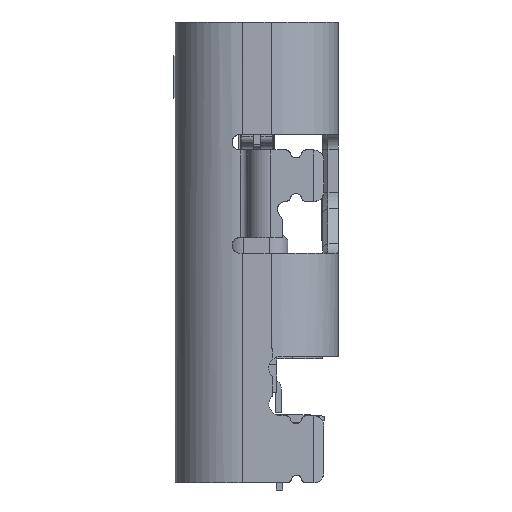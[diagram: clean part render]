
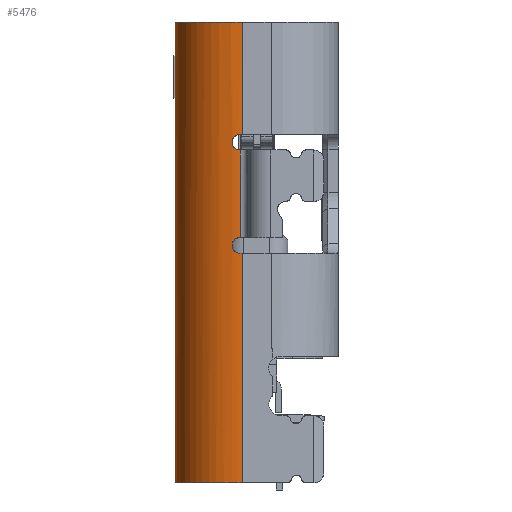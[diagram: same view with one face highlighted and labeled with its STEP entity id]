
A CAD part, left-side view. The second image highlights one B-rep face of the part: STEP entity #5476.
In plain terms, the highlighted cylindrical face has radius 1.3 mm (diameter 2.6 mm), a partial arc.
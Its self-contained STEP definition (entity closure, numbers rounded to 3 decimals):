
#1254=CARTESIAN_POINT('',(-3.17,1.58,1.13));
#1255=VERTEX_POINT('',#1254);
#1262=CARTESIAN_POINT('',(-4.47,0.28,1.13));
#1263=VERTEX_POINT('',#1262);
#1264=CARTESIAN_POINT('',(-4.47,0.28,1.13));
#1265=CARTESIAN_POINT('',(-4.47,0.45,1.13));
#1266=CARTESIAN_POINT('',(-4.436,0.62,1.13));
#1267=CARTESIAN_POINT('',(-4.306,0.935,1.13));
#1268=CARTESIAN_POINT('',(-4.21,1.079,1.13));
#1269=CARTESIAN_POINT('',(-3.969,1.32,1.13));
#1270=CARTESIAN_POINT('',(-3.825,1.416,1.13));
#1271=CARTESIAN_POINT('',(-3.51,1.546,1.13));
#1272=CARTESIAN_POINT('',(-3.34,1.58,1.13));
#1273=CARTESIAN_POINT('',(-3.17,1.58,1.13));
#1274=B_SPLINE_CURVE_WITH_KNOTS('',3,(#1264,#1265,#1266,#1267,#1268,#1269,#1270,#1271,#1272,#1273),.UNSPECIFIED.,.F.,.U.,
 (4,2,2,2,4),(0.0,0.514,1.028,1.541,2.055),.UNSPECIFIED.);
#1275=EDGE_CURVE('no 13411',#1263,#1255,#1274,.T.);
#4800=CARTESIAN_POINT('',(-3.17,1.58,-7.788));
#4801=VERTEX_POINT('',#4800);
#4809=CARTESIAN_POINT('',(-3.17,1.58,-8.6));
#4810=DIRECTION('',(0.0,-0.0,-1.0));
#4811=VECTOR('',#4810,1.0);
#4812=LINE('',#4809,#4811);
#4813=EDGE_CURVE('no 27680',#1255,#4801,#4812,.T.);
#5341=CARTESIAN_POINT('',(-4.47,0.28,-1.05));
#5342=VERTEX_POINT('',#5341);
#5343=CARTESIAN_POINT('',(-4.47,0.28,-8.6));
#5344=DIRECTION('',(0.0,0.0,1.0));
#5345=VECTOR('',#5344,1.0);
#5346=LINE('',#5343,#5345);
#5347=EDGE_CURVE('no 16686',#5342,#1263,#5346,.T.);
#5348=ORIENTED_EDGE('no 8172',*,*,#5347,.T.);
#5349=ORIENTED_EDGE('no 19537',*,*,#1275,.T.);
#5350=ORIENTED_EDGE('no 6891',*,*,#4813,.T.);
#5351=CARTESIAN_POINT('',(-3.255,1.577,-7.8));
#5352=VERTEX_POINT('',#5351);
#5353=CARTESIAN_POINT('',(-3.17,1.58,-7.788));
#5354=CARTESIAN_POINT('',(-3.198,1.58,-7.796));
#5355=CARTESIAN_POINT('',(-3.226,1.579,-7.8));
#5356=CARTESIAN_POINT('',(-3.255,1.577,-7.8));
#5357=B_SPLINE_CURVE_WITH_KNOTS('',3,(#5353,#5354,#5355,#5356),.UNSPECIFIED.,.F.,.U.,
 (4,4),(0.0,1.0),.UNSPECIFIED.);
#5358=EDGE_CURVE('no 33110',#4801,#5352,#5357,.T.);
#5359=ORIENTED_EDGE('no 407',*,*,#5358,.T.);
#5360=CARTESIAN_POINT('',(-4.47,0.28,-7.8));
#5361=VERTEX_POINT('',#5360);
#5362=CARTESIAN_POINT('',(-3.255,1.577,-7.8));
#5363=CARTESIAN_POINT('',(-3.418,1.566,-7.8));
#5364=CARTESIAN_POINT('',(-3.579,1.525,-7.8));
#5365=CARTESIAN_POINT('',(-3.873,1.385,-7.8));
#5366=CARTESIAN_POINT('',(-4.008,1.288,-7.8));
#5367=CARTESIAN_POINT('',(-4.23,1.05,-7.8));
#5368=CARTESIAN_POINT('',(-4.319,0.909,-7.8));
#5369=CARTESIAN_POINT('',(-4.439,0.606,-7.8));
#5370=CARTESIAN_POINT('',(-4.47,0.443,-7.8));
#5371=CARTESIAN_POINT('',(-4.47,0.28,-7.8));
#5372=B_SPLINE_CURVE_WITH_KNOTS('',3,(#5362,#5363,#5364,#5365,#5366,#5367,#5368,#5369,#5370,#5371),.UNSPECIFIED.,.F.,.U.,
 (4,2,2,2,4),(0.0,0.492,0.984,1.476,1.968),.UNSPECIFIED.);
#5373=EDGE_CURVE('no 1428',#5352,#5361,#5372,.T.);
#5374=ORIENTED_EDGE('no 16776',*,*,#5373,.T.);
#5375=CARTESIAN_POINT('',(-4.47,0.28,-3.35));
#5376=VERTEX_POINT('',#5375);
#5377=CARTESIAN_POINT('',(-4.47,0.28,-8.6));
#5378=DIRECTION('',(0.0,0.0,1.0));
#5379=VECTOR('',#5378,1.0);
#5380=LINE('',#5377,#5379);
#5381=EDGE_CURVE('no 22743',#5361,#5376,#5380,.T.);
#5382=ORIENTED_EDGE('no 33927',*,*,#5381,.T.);
#5383=CARTESIAN_POINT('',(-4.469,0.33,-3.35));
#5384=VERTEX_POINT('',#5383);
#5385=CARTESIAN_POINT('',(-4.47,0.28,-3.35));
#5386=CARTESIAN_POINT('',(-4.47,0.297,-3.35));
#5387=CARTESIAN_POINT('',(-4.47,0.313,-3.35));
#5388=CARTESIAN_POINT('',(-4.469,0.33,-3.35));
#5389=B_SPLINE_CURVE_WITH_KNOTS('',3,(#5385,#5386,#5387,#5388),.UNSPECIFIED.,.F.,.U.,
 (4,4),(0.0,1.0),.UNSPECIFIED.);
#5390=EDGE_CURVE('no 28889',#5376,#5384,#5389,.T.);
#5391=ORIENTED_EDGE('no 6321',*,*,#5390,.T.);
#5392=CARTESIAN_POINT('',(-4.455,0.48,-3.2));
#5393=VERTEX_POINT('',#5392);
#5394=CARTESIAN_POINT('',(-4.469,0.33,-3.35));
#5395=CARTESIAN_POINT('',(-4.467,0.372,-3.35));
#5396=CARTESIAN_POINT('',(-4.464,0.407,-3.335));
#5397=CARTESIAN_POINT('',(-4.457,0.465,-3.277));
#5398=CARTESIAN_POINT('',(-4.455,0.48,-3.242));
#5399=CARTESIAN_POINT('',(-4.455,0.48,-3.2));
#5400=B_SPLINE_CURVE_WITH_KNOTS('',3,(#5394,#5395,#5396,#5397,#5398,#5399),.UNSPECIFIED.,.F.,.U.,
 (4,2,4),(0.0,0.5,1.0),.UNSPECIFIED.);
#5401=EDGE_CURVE('no 32527',#5384,#5393,#5400,.T.);
#5402=ORIENTED_EDGE('no 4473',*,*,#5401,.T.);
#5403=CARTESIAN_POINT('',(-4.469,0.33,-3.05));
#5404=VERTEX_POINT('',#5403);
#5405=CARTESIAN_POINT('',(-4.455,0.48,-3.2));
#5406=CARTESIAN_POINT('',(-4.455,0.48,-3.158));
#5407=CARTESIAN_POINT('',(-4.457,0.465,-3.123));
#5408=CARTESIAN_POINT('',(-4.464,0.407,-3.065));
#5409=CARTESIAN_POINT('',(-4.467,0.371,-3.05));
#5410=CARTESIAN_POINT('',(-4.469,0.33,-3.05));
#5411=B_SPLINE_CURVE_WITH_KNOTS('',3,(#5405,#5406,#5407,#5408,#5409,#5410),.UNSPECIFIED.,.F.,.U.,
 (4,2,4),(0.0,0.5,1.0),.UNSPECIFIED.);
#5412=EDGE_CURVE('no 5576',#5393,#5404,#5411,.T.);
#5413=ORIENTED_EDGE('no 3074',*,*,#5412,.T.);
#5414=CARTESIAN_POINT('',(-4.469,0.325,-3.05));
#5415=VERTEX_POINT('',#5414);
#5416=CARTESIAN_POINT('',(-3.17,0.28,-3.05));
#5417=DIRECTION('',(-0.0,0.0,1.0));
#5418=DIRECTION('',(0.0,-1.0,0.0));
#5419=AXIS2_PLACEMENT_3D('',#5416,#5417,#5418);
#5420=CIRCLE('',#5419,1.3);
#5421=EDGE_CURVE('no 10601',#5404,#5415,#5420,.T.);
#5422=ORIENTED_EDGE('no 20188',*,*,#5421,.T.);
#5423=CARTESIAN_POINT('',(-4.469,0.325,-1.35));
#5424=VERTEX_POINT('',#5423);
#5425=CARTESIAN_POINT('',(-4.469,0.325,-8.6));
#5426=DIRECTION('',(0.0,0.0,1.0));
#5427=VECTOR('',#5426,1.0);
#5428=LINE('',#5425,#5427);
#5429=EDGE_CURVE('no 29578',#5415,#5424,#5428,.T.);
#5430=ORIENTED_EDGE('no 31668',*,*,#5429,.T.);
#5431=CARTESIAN_POINT('',(-4.469,0.33,-1.35));
#5432=VERTEX_POINT('',#5431);
#5433=CARTESIAN_POINT('',(-3.17,0.28,-1.35));
#5434=DIRECTION('',(0.0,-0.0,-1.0));
#5435=DIRECTION('',(0.0,-1.0,0.0));
#5436=AXIS2_PLACEMENT_3D('',#5433,#5434,#5435);
#5437=CIRCLE('',#5436,1.3);
#5438=EDGE_CURVE('no 35880',#5424,#5432,#5437,.T.);
#5439=ORIENTED_EDGE('no 15833',*,*,#5438,.T.);
#5440=CARTESIAN_POINT('',(-4.455,0.48,-1.2));
#5441=VERTEX_POINT('',#5440);
#5442=CARTESIAN_POINT('',(-4.469,0.33,-1.35));
#5443=CARTESIAN_POINT('',(-4.467,0.372,-1.35));
#5444=CARTESIAN_POINT('',(-4.464,0.407,-1.335));
#5445=CARTESIAN_POINT('',(-4.457,0.465,-1.277));
#5446=CARTESIAN_POINT('',(-4.455,0.48,-1.242));
#5447=CARTESIAN_POINT('',(-4.455,0.48,-1.2));
#5448=B_SPLINE_CURVE_WITH_KNOTS('',3,(#5442,#5443,#5444,#5445,#5446,#5447),.UNSPECIFIED.,.F.,.U.,
 (4,2,4),(0.0,0.5,1.0),.UNSPECIFIED.);
#5449=EDGE_CURVE('no 13893',#5432,#5441,#5448,.T.);
#5450=ORIENTED_EDGE('no 11131',*,*,#5449,.T.);
#5451=CARTESIAN_POINT('',(-4.469,0.33,-1.05));
#5452=VERTEX_POINT('',#5451);
#5453=CARTESIAN_POINT('',(-4.455,0.48,-1.2));
#5454=CARTESIAN_POINT('',(-4.455,0.48,-1.158));
#5455=CARTESIAN_POINT('',(-4.457,0.465,-1.123));
#5456=CARTESIAN_POINT('',(-4.464,0.407,-1.065));
#5457=CARTESIAN_POINT('',(-4.467,0.371,-1.05));
#5458=CARTESIAN_POINT('',(-4.469,0.33,-1.05));
#5459=B_SPLINE_CURVE_WITH_KNOTS('',3,(#5453,#5454,#5455,#5456,#5457,#5458),.UNSPECIFIED.,.F.,.U.,
 (4,2,4),(0.0,0.5,1.0),.UNSPECIFIED.);
#5460=EDGE_CURVE('no 2600',#5441,#5452,#5459,.T.);
#5461=ORIENTED_EDGE('no 16257',*,*,#5460,.T.);
#5462=CARTESIAN_POINT('',(-4.469,0.33,-1.05));
#5463=CARTESIAN_POINT('',(-4.47,0.313,-1.05));
#5464=CARTESIAN_POINT('',(-4.47,0.297,-1.05));
#5465=CARTESIAN_POINT('',(-4.47,0.28,-1.05));
#5466=B_SPLINE_CURVE_WITH_KNOTS('',3,(#5462,#5463,#5464,#5465),.UNSPECIFIED.,.F.,.U.,
 (4,4),(0.0,1.0),.UNSPECIFIED.);
#5467=EDGE_CURVE('no 34739',#5452,#5342,#5466,.T.);
#5468=ORIENTED_EDGE('no 25922',*,*,#5467,.T.);
#5469=EDGE_LOOP('',(
    #5348,#5349,#5350,#5359,#5374,#5382,#5391,#5402,#5413,#5422,
    #5430,#5439,#5450,#5461,#5468));
#5470=FACE_OUTER_BOUND('',#5469,.T.);
#5471=CARTESIAN_POINT('',(-3.17,0.28,-8.6));
#5472=DIRECTION('',(-0.0,0.0,1.0));
#5473=DIRECTION('',(0.707,-0.707,0.0));
#5474=AXIS2_PLACEMENT_3D('',#5471,#5472,#5473);
#5475=CYLINDRICAL_SURFACE('',#5474,1.3);
#5476=ADVANCED_FACE('no 8029',(#5470),#5475,.T.);
